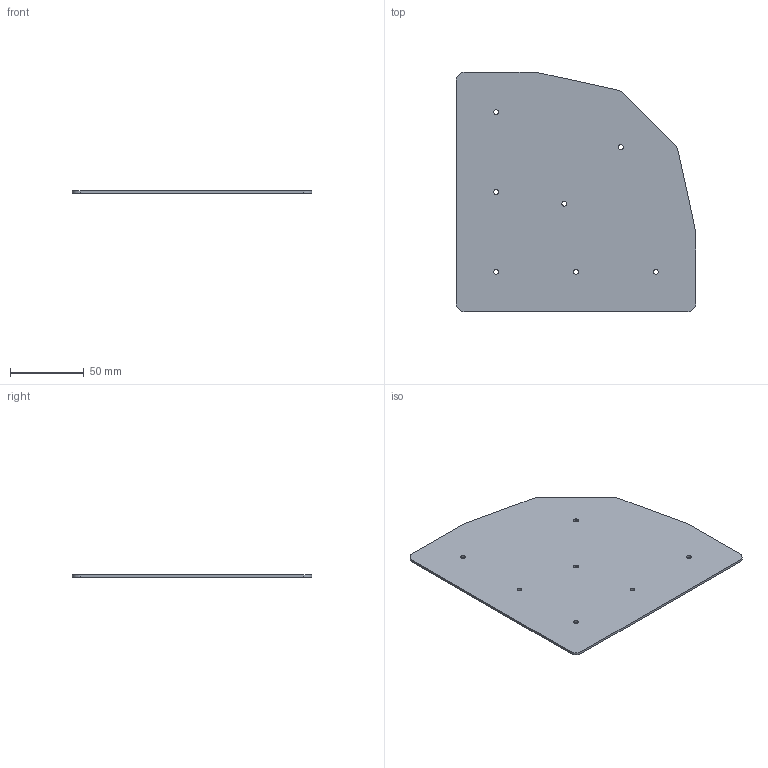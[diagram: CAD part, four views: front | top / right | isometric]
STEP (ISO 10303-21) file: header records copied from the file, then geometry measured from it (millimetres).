
FILE_DESCRIPTION (( 'STEP AP203' ), '1' );
FILE_NAME ('FDPGK-S_2-2C9045.step', '2019-09-11T19:49:18', ( 'ydmin' ), ( '' ), 'SwSTEP 2.0', 'SolidWorks 2017', '' );
FILE_SCHEMA (( 'CONFIG_CONTROL_DESIGN' ));
Length unit declared in the file: inch
Products named in the file (1): FDPGK-S_2-2C9045
Bounding box: 161.93 x 161.93 x 1.59 mm (x, y, z)
Volume: 37432.5 mm3; surface area: 48219.9 mm2
Topology: 1 solids, 1 shells, 30 faces, 84 edges, 56 vertices
Faces by surface type: cylinder 21, plane 9
Entity records: 1097 total; most frequent: DIRECTION 188, CARTESIAN_POINT 171, ORIENTED_EDGE 168, EDGE_CURVE 84, AXIS2_PLACEMENT_3D 73, VERTEX_POINT 56, EDGE_LOOP 44, VECTOR 42
